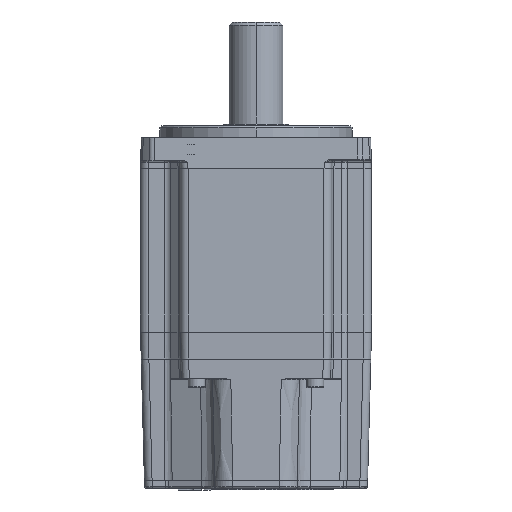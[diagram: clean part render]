
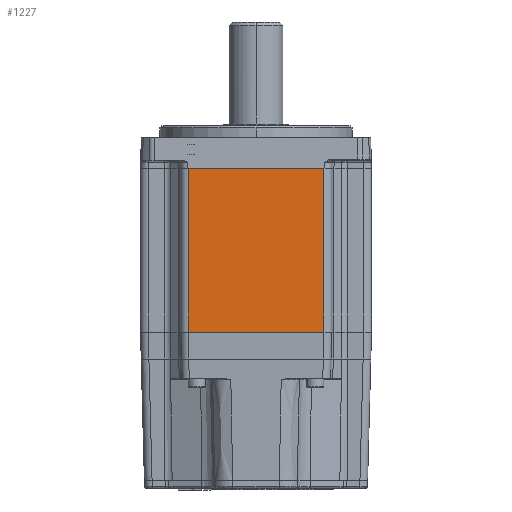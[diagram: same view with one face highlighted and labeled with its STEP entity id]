
A CAD part, front view. The second image highlights one B-rep face of the part: STEP entity #1227.
In plain terms, the highlighted planar face has unit normal (0, -1, 0).
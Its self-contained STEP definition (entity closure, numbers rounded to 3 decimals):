
#156 = CARTESIAN_POINT ( 'NONE',  ( 0., -30., 34.347 ) ) ;
#1227 = ADVANCED_FACE ( 'NONE', ( #3895 ), #42037, .F. ) ;
#3210 = LINE ( 'NONE', #3286, #51066 ) ;
#3286 = CARTESIAN_POINT ( 'NONE',  ( 0., -30., -8.153 ) ) ;
#3895 = FACE_OUTER_BOUND ( 'NONE', #55298, .T. ) ;
#6495 = CARTESIAN_POINT ( 'NONE',  ( 0., -30., 34.347 ) ) ;
#6672 = CARTESIAN_POINT ( 'NONE',  ( -17.65, -30., 34.347 ) ) ;
#8212 = VECTOR ( 'NONE', #28925, 1000. ) ;
#8343 = DIRECTION ( 'NONE',  ( 0., 0., 1. ) ) ;
#8724 = CARTESIAN_POINT ( 'NONE',  ( 17.65, -30., 34.347 ) ) ;
#8958 = VERTEX_POINT ( 'NONE', #34275 ) ;
#9901 = VECTOR ( 'NONE', #39397, 1000. ) ;
#11547 = VECTOR ( 'NONE', #8343, 1000. ) ;
#11960 = DIRECTION ( 'NONE',  ( 1., 0., 0. ) ) ;
#12853 = VERTEX_POINT ( 'NONE', #24843 ) ;
#13971 = EDGE_CURVE ( 'NONE', #12853, #15726, #46111, .T. ) ;
#15343 = ORIENTED_EDGE ( 'NONE', *, *, #16171, .T. ) ;
#15671 = EDGE_CURVE ( 'NONE', #8958, #15726, #47722, .T. ) ;
#15726 = VERTEX_POINT ( 'NONE', #8724 ) ;
#16171 = EDGE_CURVE ( 'NONE', #26150, #8958, #3210, .T. ) ;
#17145 = CARTESIAN_POINT ( 'NONE',  ( 17.65, -30., 34.347 ) ) ;
#20275 = DIRECTION ( 'NONE',  ( 0., 0., 1. ) ) ;
#24843 = CARTESIAN_POINT ( 'NONE',  ( -17.65, -30., 34.347 ) ) ;
#26150 = VERTEX_POINT ( 'NONE', #42422 ) ;
#28925 = DIRECTION ( 'NONE',  ( 0., 0., -1. ) ) ;
#29781 = ORIENTED_EDGE ( 'NONE', *, *, #13971, .F. ) ;
#31888 = EDGE_CURVE ( 'NONE', #12853, #26150, #34266, .T. ) ;
#34266 = LINE ( 'NONE', #6672, #8212 ) ;
#34275 = CARTESIAN_POINT ( 'NONE',  ( 17.65, -30., -8.153 ) ) ;
#39397 = DIRECTION ( 'NONE',  ( 1., 0., 0. ) ) ;
#42037 = PLANE ( 'NONE',  #44167 ) ;
#42128 = ORIENTED_EDGE ( 'NONE', *, *, #31888, .T. ) ;
#42422 = CARTESIAN_POINT ( 'NONE',  ( -17.65, -30., -8.153 ) ) ;
#44167 = AXIS2_PLACEMENT_3D ( 'NONE', #6495, #55343, #20275 ) ;
#46111 = LINE ( 'NONE', #156, #9901 ) ;
#47722 = LINE ( 'NONE', #17145, #11547 ) ;
#51066 = VECTOR ( 'NONE', #11960, 1000. ) ;
#52174 = ORIENTED_EDGE ( 'NONE', *, *, #15671, .T. ) ;
#55298 = EDGE_LOOP ( 'NONE', ( #15343, #52174, #29781, #42128 ) ) ;
#55343 = DIRECTION ( 'NONE',  ( 0., 1., 0. ) ) ;
